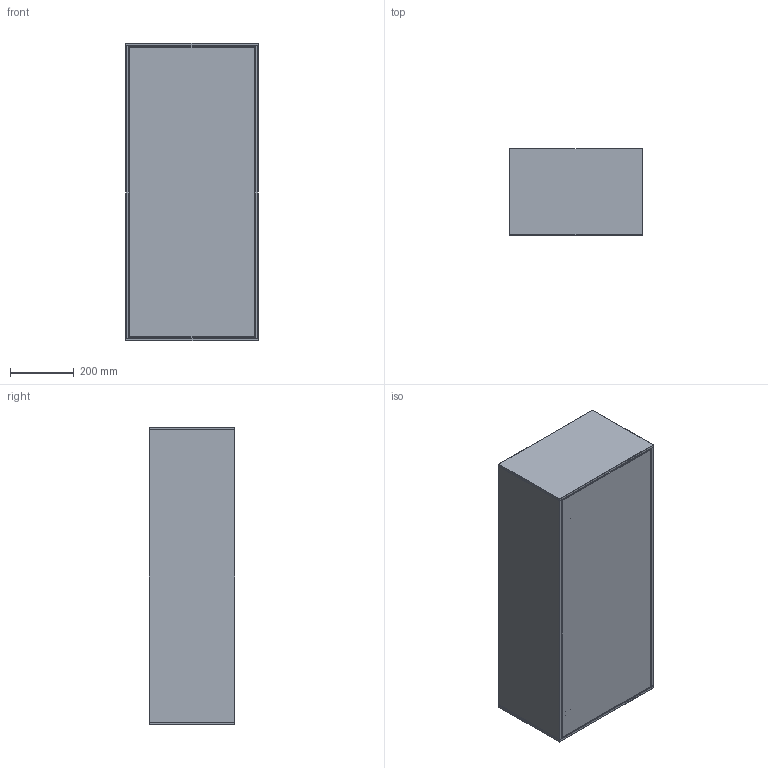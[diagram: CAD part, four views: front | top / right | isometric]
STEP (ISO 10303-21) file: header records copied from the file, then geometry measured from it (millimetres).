
FILE_DESCRIPTION((' '),'2;1');
FILE_NAME('M:\DWG\MÖBEL\3D-Zeichnungen Typen\Finion\STP\Finion_F560YYXX_3D.stp','2016-09-19T16:17:08',(' '),(' '),' ','ACIS',' ');
FILE_SCHEMA(('CONFIG_CONTROL_DESIGN'));
Length unit declared in the file: millimetre
Products named in the file (39): M:\DWG\MÖBEL\3D-Zeichnungen Typen\Finion\STP\Finion_F560YYXX_3D.stp; Körper1; Körper2; Körper3; Körper4; Körper5; Körper6; Körper7; Körper8; Körper9; Körper10; Körper11; Körper12; Körper13; Körper14; Körper15; Körper16; Körper17; Körper18; Körper19; Körper20; Körper21; Körper22; Körper23; Körper24; Körper25; Körper26; Körper27; Körper28; Körper29; Körper30; Körper31; Körper32; Körper33; Körper34; Körper35; Körper36; Körper37; Körper38
Assembly tree (38 placements, depth 2):
  M:\DWG\MÖBEL\3D-Zeichnungen Typen\Finion\STP\Finion_F560YYXX_3D.stp
    Körper1
    Körper2
    Körper3
    Körper4
    Körper5
    Körper6
    Körper7
    Körper8
    Körper9
    Körper10
    Körper11
    Körper12
    Körper13
    Körper14
    Körper15
    Körper16
    Körper17
    Körper18
    Körper19
    Körper20
    Körper21
    Körper22
    Körper23
    Körper24
    Körper25
    Körper26
    Körper27
    Körper28
    Körper29
    Körper30
    Körper31
    Körper32
    Körper33
    Körper34
    Körper35
    Körper36
    Körper37
    Körper38
Bounding box: 418 x 270 x 936 mm (x, y, z)
Volume: 23723014.1 mm3; surface area: 4837487.4 mm2
Topology: 39 solids, 39 shells, 1512 faces, 3780 edges, 2413 vertices
Faces by surface type: bspline 826, plane 449, cylinder 208, cone 10, sphere 10, torus 9
Full cylindrical faces by diameter (mm): 3 x22, 4 x3, 5.5 x3, 8 x8, 8.02 x8, 8.5 x2, 9.5 x3, 10 x6, 14 x2
Entity records: 53757 total; most frequent: CARTESIAN_POINT 14833, ORIENTED_EDGE 7176, DIRECTION 6037, EDGE_CURVE 3588, VECTOR 2565, LINE 2565, VERTEX_POINT 2365, EDGE_LOOP 1837
